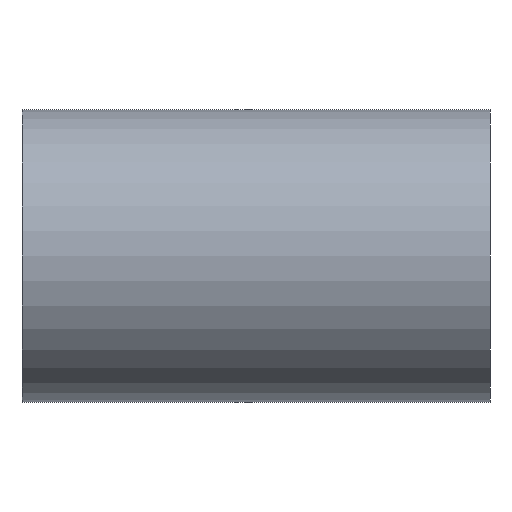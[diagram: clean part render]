
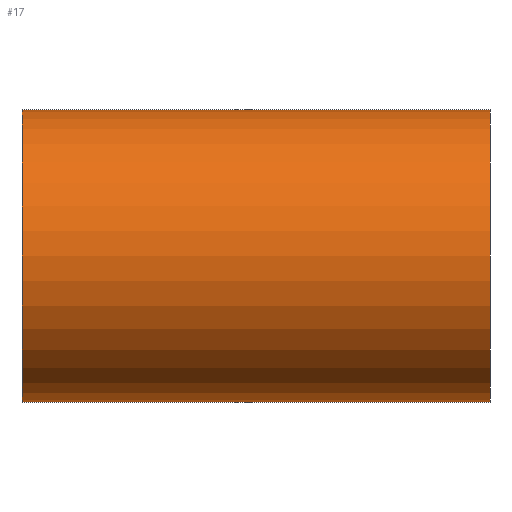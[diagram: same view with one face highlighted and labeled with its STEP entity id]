
A CAD part, front view. The second image highlights one B-rep face of the part: STEP entity #17.
In plain terms, the highlighted cylindrical face has radius 2.5 mm (diameter 5 mm), a full revolution.
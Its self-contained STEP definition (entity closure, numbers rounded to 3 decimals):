
#17 = ADVANCED_FACE('',(#18),#31,.T.);
#18 = FACE_BOUND('',#19,.T.);
#19 = EDGE_LOOP('',(#20,#54,#77,#104));
#20 = ORIENTED_EDGE('',*,*,#21,.F.);
#21 = EDGE_CURVE('',#22,#22,#24,.T.);
#22 = VERTEX_POINT('',#23);
#23 = CARTESIAN_POINT('',(93.5,-116.913,89.2));
#24 = SURFACE_CURVE('',#25,(#30,#42),.PCURVE_S1.);
#25 = CIRCLE('',#26,2.5);
#26 = AXIS2_PLACEMENT_3D('',#27,#28,#29);
#27 = CARTESIAN_POINT('',(93.5,-116.913,86.7));
#28 = DIRECTION('',(1.,0.,0.));
#29 = DIRECTION('',(-0.,0.,1.));
#30 = PCURVE('',#31,#36);
#31 = CYLINDRICAL_SURFACE('',#32,2.5);
#32 = AXIS2_PLACEMENT_3D('',#33,#34,#35);
#33 = CARTESIAN_POINT('',(85.5,-116.913,86.7));
#34 = DIRECTION('',(1.,0.,0.));
#35 = DIRECTION('',(-0.,0.,1.));
#36 = DEFINITIONAL_REPRESENTATION('',(#37),#41);
#37 = LINE('',#38,#39);
#38 = CARTESIAN_POINT('',(0.,8.));
#39 = VECTOR('',#40,1.);
#40 = DIRECTION('',(1.,0.));
#41 = ( GEOMETRIC_REPRESENTATION_CONTEXT(2) 
PARAMETRIC_REPRESENTATION_CONTEXT() REPRESENTATION_CONTEXT('2D SPACE',''
  ) );
#42 = PCURVE('',#43,#48);
#43 = PLANE('',#44);
#44 = AXIS2_PLACEMENT_3D('',#45,#46,#47);
#45 = CARTESIAN_POINT('',(93.5,-116.913,86.7));
#46 = DIRECTION('',(1.,0.,0.));
#47 = DIRECTION('',(-0.,0.,1.));
#48 = DEFINITIONAL_REPRESENTATION('',(#49),#53);
#49 = CIRCLE('',#50,2.5);
#50 = AXIS2_PLACEMENT_2D('',#51,#52);
#51 = CARTESIAN_POINT('',(0.,0.));
#52 = DIRECTION('',(1.,0.));
#53 = ( GEOMETRIC_REPRESENTATION_CONTEXT(2) 
PARAMETRIC_REPRESENTATION_CONTEXT() REPRESENTATION_CONTEXT('2D SPACE',''
  ) );
#54 = ORIENTED_EDGE('',*,*,#55,.F.);
#55 = EDGE_CURVE('',#56,#22,#58,.T.);
#56 = VERTEX_POINT('',#57);
#57 = CARTESIAN_POINT('',(85.5,-116.913,89.2));
#58 = SEAM_CURVE('',#59,(#63,#70),.PCURVE_S1.);
#59 = LINE('',#60,#61);
#60 = CARTESIAN_POINT('',(85.5,-116.913,89.2));
#61 = VECTOR('',#62,1.);
#62 = DIRECTION('',(1.,0.,0.));
#63 = PCURVE('',#31,#64);
#64 = DEFINITIONAL_REPRESENTATION('',(#65),#69);
#65 = LINE('',#66,#67);
#66 = CARTESIAN_POINT('',(6.283,-0.));
#67 = VECTOR('',#68,1.);
#68 = DIRECTION('',(0.,1.));
#69 = ( GEOMETRIC_REPRESENTATION_CONTEXT(2) 
PARAMETRIC_REPRESENTATION_CONTEXT() REPRESENTATION_CONTEXT('2D SPACE',''
  ) );
#70 = PCURVE('',#31,#71);
#71 = DEFINITIONAL_REPRESENTATION('',(#72),#76);
#72 = LINE('',#73,#74);
#73 = CARTESIAN_POINT('',(0.,-0.));
#74 = VECTOR('',#75,1.);
#75 = DIRECTION('',(0.,1.));
#76 = ( GEOMETRIC_REPRESENTATION_CONTEXT(2) 
PARAMETRIC_REPRESENTATION_CONTEXT() REPRESENTATION_CONTEXT('2D SPACE',''
  ) );
#77 = ORIENTED_EDGE('',*,*,#78,.T.);
#78 = EDGE_CURVE('',#56,#56,#79,.T.);
#79 = SURFACE_CURVE('',#80,(#85,#92),.PCURVE_S1.);
#80 = CIRCLE('',#81,2.5);
#81 = AXIS2_PLACEMENT_3D('',#82,#83,#84);
#82 = CARTESIAN_POINT('',(85.5,-116.913,86.7));
#83 = DIRECTION('',(1.,0.,0.));
#84 = DIRECTION('',(-0.,0.,1.));
#85 = PCURVE('',#31,#86);
#86 = DEFINITIONAL_REPRESENTATION('',(#87),#91);
#87 = LINE('',#88,#89);
#88 = CARTESIAN_POINT('',(0.,0.));
#89 = VECTOR('',#90,1.);
#90 = DIRECTION('',(1.,0.));
#91 = ( GEOMETRIC_REPRESENTATION_CONTEXT(2) 
PARAMETRIC_REPRESENTATION_CONTEXT() REPRESENTATION_CONTEXT('2D SPACE',''
  ) );
#92 = PCURVE('',#93,#98);
#93 = PLANE('',#94);
#94 = AXIS2_PLACEMENT_3D('',#95,#96,#97);
#95 = CARTESIAN_POINT('',(85.5,-116.913,86.7));
#96 = DIRECTION('',(1.,0.,0.));
#97 = DIRECTION('',(-0.,0.,1.));
#98 = DEFINITIONAL_REPRESENTATION('',(#99),#103);
#99 = CIRCLE('',#100,2.5);
#100 = AXIS2_PLACEMENT_2D('',#101,#102);
#101 = CARTESIAN_POINT('',(0.,0.));
#102 = DIRECTION('',(1.,0.));
#103 = ( GEOMETRIC_REPRESENTATION_CONTEXT(2) 
PARAMETRIC_REPRESENTATION_CONTEXT() REPRESENTATION_CONTEXT('2D SPACE',''
  ) );
#104 = ORIENTED_EDGE('',*,*,#55,.T.);
